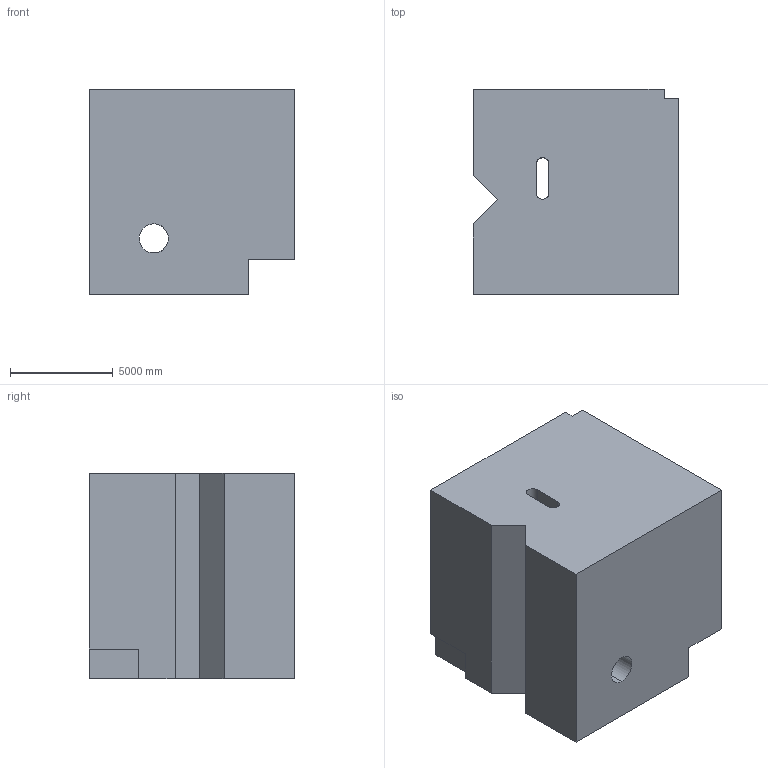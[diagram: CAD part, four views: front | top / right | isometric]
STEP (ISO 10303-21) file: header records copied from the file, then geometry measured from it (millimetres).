
FILE_DESCRIPTION (( 'STEP AP203' ), '1' );
FILE_NAME ('70.STEP', '2022-09-01T14:14:35', ( 'user' ), ( '' ), 'SwSTEP 2.0', 'SolidWorks 2021', '' );
FILE_SCHEMA (( 'CONFIG_CONTROL_DESIGN' ));
Length unit declared in the file: centimetre
Products named in the file (1): 70
Bounding box: 10000 x 10000 x 10000 mm (x, y, z)
Volume: 905908919853.1 mm3; surface area: 684101715.5 mm2
Topology: 1 solids, 1 shells, 37 faces, 111 edges, 74 vertices
Faces by surface type: plane 31, cylinder 6
Entity records: 1770 total; most frequent: CARTESIAN_POINT 687, ORIENTED_EDGE 222, DIRECTION 187, EDGE_CURVE 111, VECTOR 95, LINE 95, VERTEX_POINT 74, AXIS2_PLACEMENT_3D 46
